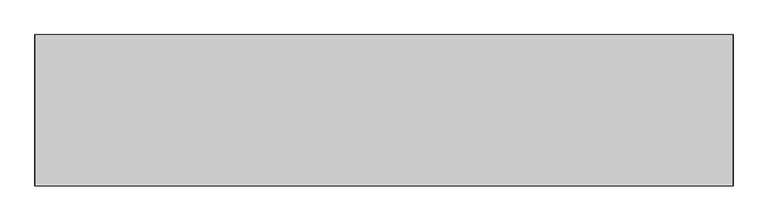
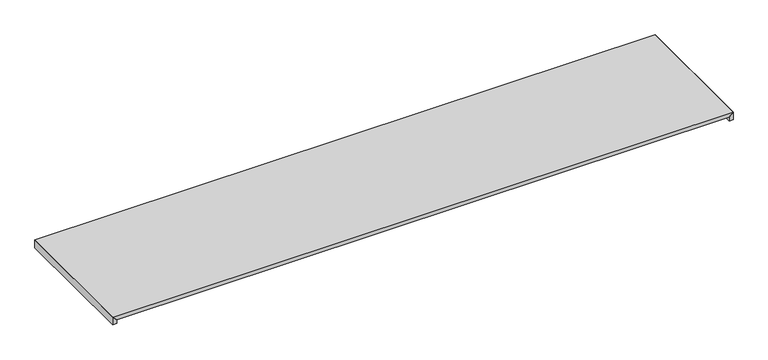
"""IFC4 building model written with IfcOpenShell, lengths in millimetres: proxy geometry, AERO^OFFICE 4_114 WALL HUNG-FULL TACK."""

from ifc_helpers import new_model, si_unit, frame, origin, place, context, project, spatial, polyline, outline, extrude, source, transform, mapped, element, save


def generic_models_d8679140(model_context):
    return source(origin(), model_context, "Body", "SweptSolid", [
        extrude(outline(polyline([(0.0, 19.05), (19.05, 0.0), (-19.05, 0.0), (-19.05, 19.05), (0.0, 19.05)])), frame((0.0, 0.0, 0.0), z_axis=(0.0, 1.0, 0.0), x_axis=(0.0, 0.0, 1.0)), (0.0, 0.0, 1.0), 628.65),
        extrude(outline(polyline([(19.05, 2895.6), (0.0, 2876.55), (-19.05, 2876.55), (-19.05, 2895.6), (19.05, 2895.6)])), frame((0.0, 0.0, 0.0), z_axis=(0.0, 1.0, 0.0), x_axis=(0.0, 0.0, 1.0)), (0.0, 0.0, 1.0), 628.65),
        extrude(outline(polyline([(0.0, 2876.55), (19.05, 2895.6), (19.05, 0.0), (0.0, 19.05), (0.0, 2876.55)])), frame((0.0, 0.0, 0.0), z_axis=(0.0, 1.0, 0.0), x_axis=(0.0, 0.0, 1.0)), (0.0, 0.0, 1.0), 628.65),
    ])


if __name__ == "__main__":
    model = new_model("IFC4")
    model_context = context("Model", 3, world=origin())
    ifc_project = project(units=[si_unit("LENGTHUNIT", "METRE", prefix="MILLI")], contexts=[model_context])
    site = spatial("IfcSite", under=ifc_project)
    building = spatial("IfcBuilding", under=site)
    placement = place(None, origin())
    generic_models_shape = generic_models_d8679140(model_context)
    element("IfcBuildingElementProxy", 1, Name="AERO^OFFICE 4_114 WALL HUNG-FULL TACK", ObjectType="AERO^OFFICE 4_114 WALL HUNG-FULL TACK", at=placement, inside=building, context=model_context, shape_type="MappedRepresentation", body=[
        mapped(generic_models_shape, transform((0.0, 0.0, 0.0), x_axis=(1.0, 0.0, 0.0), y_axis=(0.0, 1.0, 0.0), z_axis=(0.0, 0.0, 1.0))),
    ])
    save(model, "model.ifc")
